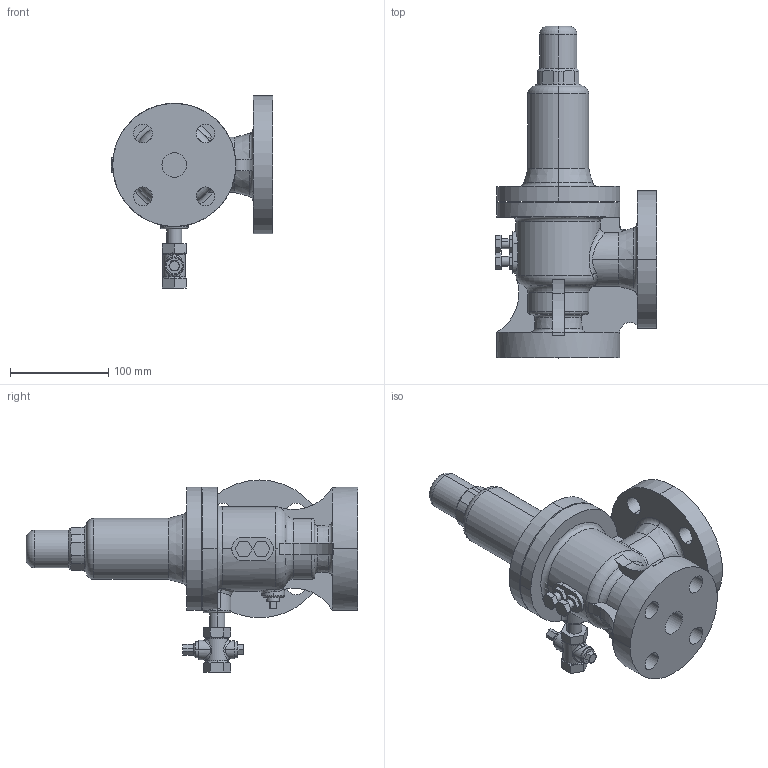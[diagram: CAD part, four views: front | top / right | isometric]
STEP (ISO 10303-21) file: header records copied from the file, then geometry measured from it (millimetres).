
FILE_DESCRIPTION (( 'STEP AP203' ), '1' );
FILE_NAME ('AF-4M 25A.STEP', '2024-07-10T03:01:04', ( '' ), ( '' ), 'SwSTEP 2.0', 'SolidWorks 2024', '' );
FILE_SCHEMA (( 'CONFIG_CONTROL_DESIGN' ));
Length unit declared in the file: millimetre
Products named in the file (6): AF-4M 25A; キャップ 25A; 止めボルト 25A; 背圧絞り弁 25A; AF-4 本体部P 25A; プラグ 8A
Assembly tree (6 placements, depth 2):
  AF-4M 25A
    AF-4 本体部P 25A
    背圧絞り弁 25A
    止めボルト 25A  x2
    キャップ 25A
    プラグ 8A
Bounding box: 164 x 337 x 195 mm (x, y, z)
Volume: 1995715 mm3; surface area: 214770.9 mm2
Topology: 6 solids, 6 shells, 336 faces, 831 edges, 526 vertices
Faces by surface type: plane 133, cylinder 90, torus 54, cone 38, bspline 19, sphere 2
Entity records: 13505 total; most frequent: CARTESIAN_POINT 5381, ORIENTED_EDGE 1578, DIRECTION 1566, EDGE_CURVE 789, AXIS2_PLACEMENT_3D 633, VERTEX_POINT 498, EDGE_LOOP 351, CIRCLE 325
